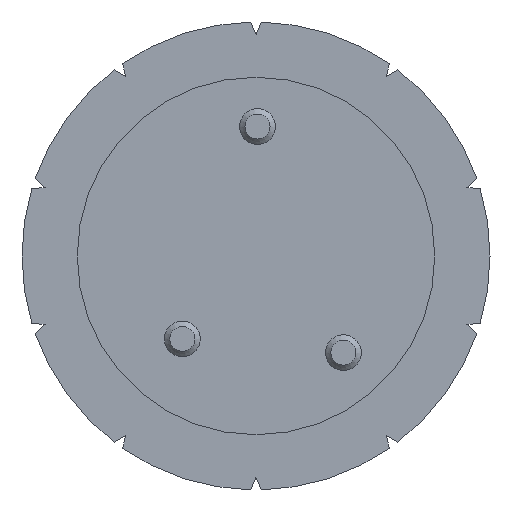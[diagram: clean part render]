
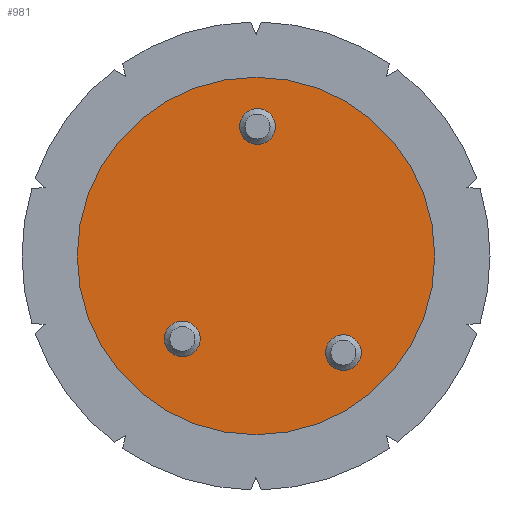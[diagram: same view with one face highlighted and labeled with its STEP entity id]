
A CAD part, left-side view. The second image highlights one B-rep face of the part: STEP entity #981.
In plain terms, the highlighted planar face has unit normal (-1, 0, 0).
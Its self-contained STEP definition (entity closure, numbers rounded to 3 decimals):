
#101=FACE_BOUND('',#209,.T.);
#102=FACE_BOUND('',#210,.T.);
#103=FACE_BOUND('',#211,.T.);
#112=PLANE('',#1068);
#146=FACE_OUTER_BOUND('',#208,.T.);
#208=EDGE_LOOP('',(#693));
#209=EDGE_LOOP('',(#694));
#210=EDGE_LOOP('',(#695));
#211=EDGE_LOOP('',(#696));
#352=CIRCLE('',#1051,5.);
#355=CIRCLE('',#1057,5.);
#358=CIRCLE('',#1063,5.);
#359=CIRCLE('',#1066,50.);
#410=VERTEX_POINT('',#1362);
#413=VERTEX_POINT('',#1373);
#416=VERTEX_POINT('',#1384);
#417=VERTEX_POINT('',#1389);
#513=EDGE_CURVE('',#410,#410,#352,.T.);
#518=EDGE_CURVE('',#413,#413,#355,.T.);
#523=EDGE_CURVE('',#416,#416,#358,.T.);
#524=EDGE_CURVE('',#417,#417,#359,.T.);
#693=ORIENTED_EDGE('',*,*,#524,.F.);
#694=ORIENTED_EDGE('',*,*,#513,.F.);
#695=ORIENTED_EDGE('',*,*,#523,.F.);
#696=ORIENTED_EDGE('',*,*,#518,.F.);
#981=ADVANCED_FACE('',(#146,#101,#102,#103),#112,.F.);
#1051=AXIS2_PLACEMENT_3D('',#1364,#1147,#1148);
#1057=AXIS2_PLACEMENT_3D('',#1375,#1161,#1162);
#1063=AXIS2_PLACEMENT_3D('',#1386,#1175,#1176);
#1066=AXIS2_PLACEMENT_3D('',#1390,#1181,#1182);
#1068=AXIS2_PLACEMENT_3D('',#1394,#1186,#1187);
#1147=DIRECTION('center_axis',(-1.,0.,0.));
#1148=DIRECTION('ref_axis',(0.,1.,0.));
#1161=DIRECTION('center_axis',(-1.,0.,0.));
#1162=DIRECTION('ref_axis',(0.,1.,0.));
#1175=DIRECTION('center_axis',(-1.,0.,0.));
#1176=DIRECTION('ref_axis',(0.,1.,0.));
#1181=DIRECTION('center_axis',(1.,0.,0.));
#1182=DIRECTION('ref_axis',(0.,1.,0.));
#1186=DIRECTION('center_axis',(1.,0.,0.));
#1187=DIRECTION('ref_axis',(0.,1.,0.));
#1362=CARTESIAN_POINT('',(145.,-29.449,-27.035));
#1364=CARTESIAN_POINT('Origin',(145.,-24.449,-27.035));
#1373=CARTESIAN_POINT('',(145.,-5.417,36.214));
#1375=CARTESIAN_POINT('Origin',(145.,-0.417,36.214));
#1384=CARTESIAN_POINT('',(145.,15.61,-23.197));
#1386=CARTESIAN_POINT('Origin',(145.,20.61,-23.197));
#1389=CARTESIAN_POINT('',(145.,-50.,0.));
#1390=CARTESIAN_POINT('Origin',(145.,0.,0.));
#1394=CARTESIAN_POINT('Origin',(145.,0.,0.));
